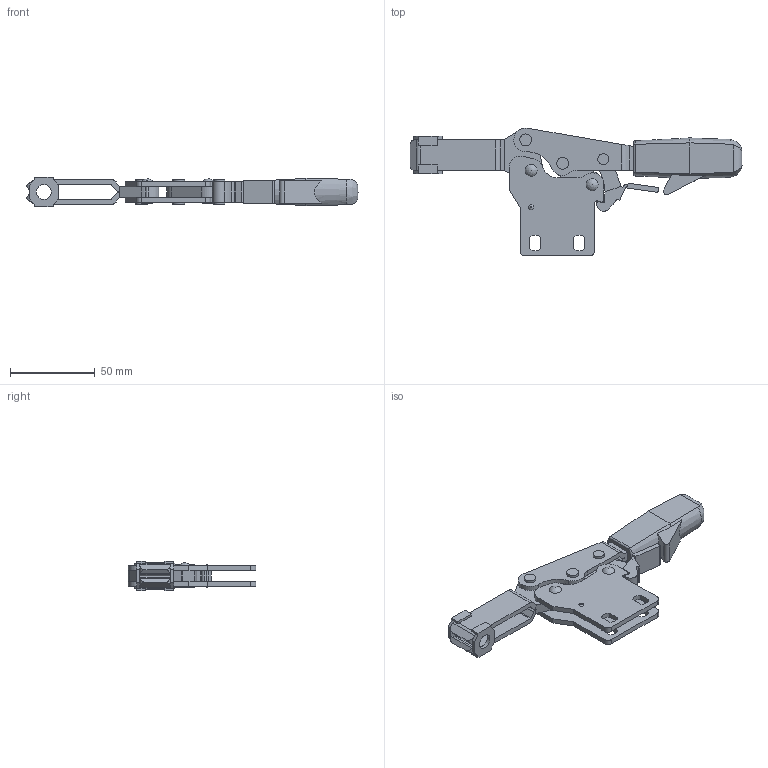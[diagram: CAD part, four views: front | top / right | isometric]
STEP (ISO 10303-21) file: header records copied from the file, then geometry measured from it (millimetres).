
FILE_DESCRIPTION( ( 'STEP AP203' ), '1' );
FILE_NAME( 'C:/Temp/Ganter_Step_05_03_2020/data/2_4/gn_820_4/gn_820_4_ni/Stainless Steel-Toggle clamp GN 820.4-230-NL-NI (closed).stp', '2020-03-13T05:53:46', ( 'License CC BY-ND 4.0' ), ( 'CADENAS' ), ' ', 'PARTsolutions', ' ' );
FILE_SCHEMA( ( 'CONFIG_CONTROL_DESIGN' ) );
Length unit declared in the file: millimetre
Products named in the file (7): Stainless Steel-Toggle clamp GN 820.4-230-NL-NI (closed); _Toggle clamp GN 820.4-230-NL-NI-1; _Toggle clamp GN 820.4-230-NL-NI (1)-2; _Toggle clamp GN 820.4-230-NL-NI (1)-3; _Toggle clamp GN 820.4-230-NL-NI (1)-4; _Toggle clamp GN 820.4-230-NL-NI-5; _Toggle clamp GN 820.4-230-NL-NI-7
Assembly tree (7 placements, depth 2):
  Stainless Steel-Toggle clamp GN 820.4-230-NL-NI (closed)
    _Toggle clamp GN 820.4-230-NL-NI-1
    _Toggle clamp GN 820.4-230-NL-NI (1)-2
    _Toggle clamp GN 820.4-230-NL-NI (1)-3
    _Toggle clamp GN 820.4-230-NL-NI (1)-4
    _Toggle clamp GN 820.4-230-NL-NI-5
    _Toggle clamp GN 820.4-230-NL-NI-7  x2
Bounding box: 196 x 75.47 x 17.6 mm (x, y, z)
Volume: 59120 mm3; surface area: 34444.3 mm2
Topology: 7 solids, 7 shells, 263 faces, 710 edges, 475 vertices
Faces by surface type: plane 150, cylinder 99, bspline 6, torus 4, cone 4
Full cylindrical faces by diameter (mm): 1.4 x1, 4.4 x4, 6.5 x5, 7 x10, 8.8 x2
Entity records: 7996 total; most frequent: CARTESIAN_POINT 1599, DIRECTION 1314, ORIENTED_EDGE 1234, EDGE_CURVE 617, AXIS2_PLACEMENT_3D 475, VERTEX_POINT 428, LINE 364, VECTOR 364
